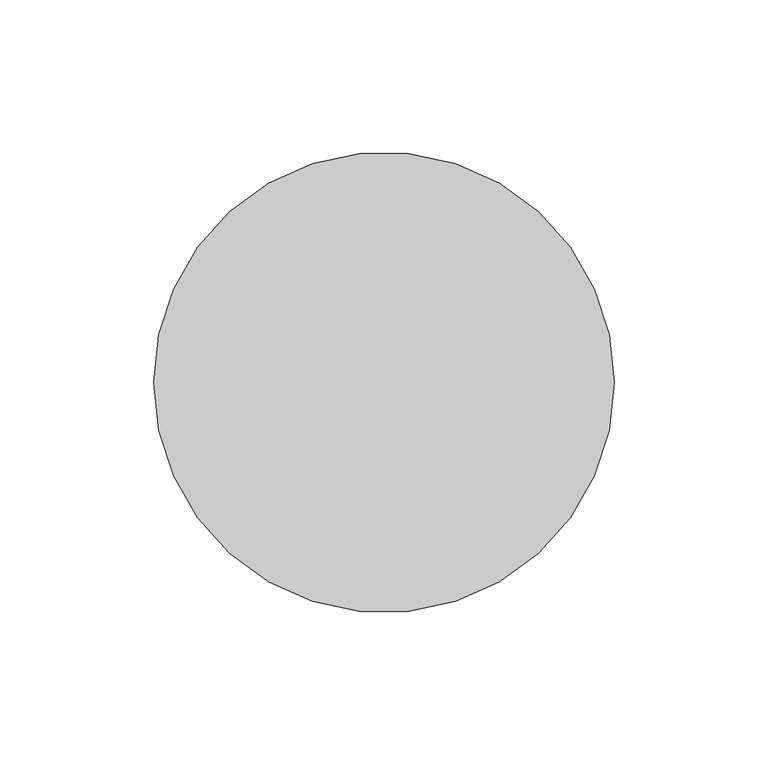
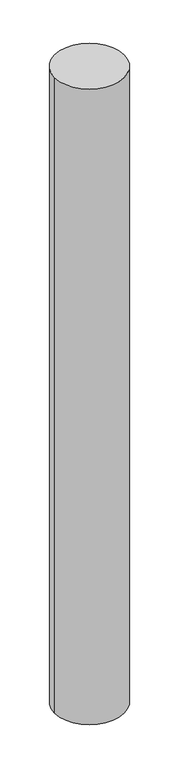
"""IFC4 building model written with IfcOpenShell, lengths in millimetres: flow terminal geometry, SP_Стояки : К."""

from ifc_helpers import new_model, si_unit, point, frame, frame_2d, origin, place, context, project, spatial, circle_curve, trimmed, segment, composite_curve, outline, extrude, source, transform, mapped, element, save


def flow_terminal_0537c6bd(model_context):
    return source(origin(), model_context, "Body", "SweptSolid", [
        extrude(outline(composite_curve([segment(trimmed(circle_curve(frame_2d((100.0, 94.7596685)), 75.0), [point((25.0, 94.7596685))], [point((175.0, 94.7596685))], False, "CARTESIAN"), True, "CONTINUOUS"), segment(trimmed(circle_curve(frame_2d((100.0, 94.7596685)), 75.0), [point((175.0, 94.7596685))], [point((25.0, 94.7596685))], False, "CARTESIAN"), True, "CONTINUOUS")], self_intersect=False)), frame((0.0, 0.0, 28250.0), z_axis=(0.0, 0.0, 1.0), x_axis=(1.0, 0.0, 0.0)), (0.0, 0.0, 1.0), 1450.0),
    ])


if __name__ == "__main__":
    model = new_model("IFC4")
    model_context = context("Model", 3, world=origin())
    ifc_project = project(units=[si_unit("LENGTHUNIT", "METRE", prefix="MILLI")], contexts=[model_context])
    site = spatial("IfcSite", under=ifc_project)
    building = spatial("IfcBuilding", under=site)
    placement = place(None, origin())
    flow_terminal_shape = flow_terminal_0537c6bd(model_context)
    element("IfcFlowTerminal", 1, ObjectType="SP_Стояки : К", at=placement, inside=building, context=model_context, shape_type="MappedRepresentation", body=[
        mapped(flow_terminal_shape, transform((0.0, 0.0, 0.0), x_axis=(1.0, 0.0, 0.0), y_axis=(0.0, 1.0, 0.0), z_axis=(0.0, 0.0, 1.0))),
    ])
    save(model, "model.ifc")
